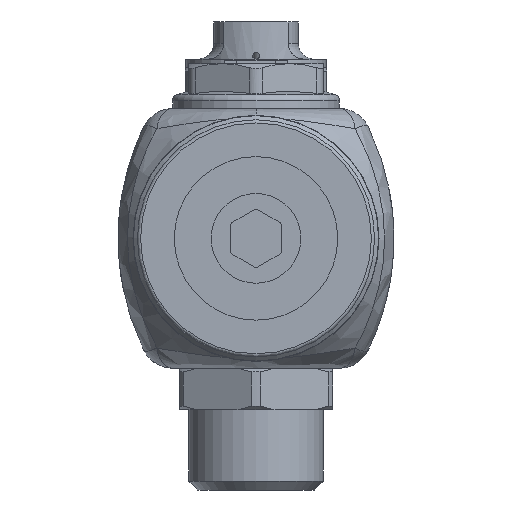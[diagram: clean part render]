
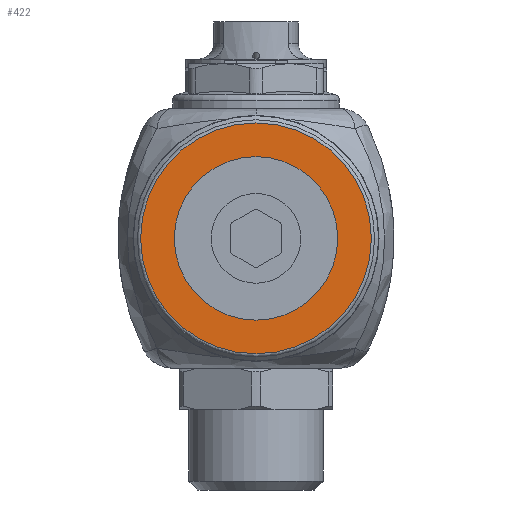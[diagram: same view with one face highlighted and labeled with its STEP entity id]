
A CAD part, front view. The second image highlights one B-rep face of the part: STEP entity #422.
In plain terms, the highlighted planar face has unit normal (0, -1, 0).
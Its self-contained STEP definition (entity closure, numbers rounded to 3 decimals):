
#422=ADVANCED_FACE('',(#12111,#12113),#12115,.F.);
#12111=FACE_BOUND('',#12112,.T.);
#12112=EDGE_LOOP('',(#21010));
#12113=FACE_BOUND('',#12114,.T.);
#12114=EDGE_LOOP('',(#21011));
#12115=PLANE('',#12116);
#12116=AXIS2_PLACEMENT_3D('',#12117,#12118,#12119);
#12117=CARTESIAN_POINT('',(0.,-95.75,0.));
#12118=DIRECTION('',(0.,1.,0.));
#12119=DIRECTION('',(-1.,0.,0.));
#21010=ORIENTED_EDGE('',*,*,#25100,.T.);
#21011=ORIENTED_EDGE('',*,*,#25130,.T.);
#25100=EDGE_CURVE('',#28262,#28262,#28263,.T.);
#25130=EDGE_CURVE('',#28311,#28311,#28312,.F.);
#28262=VERTEX_POINT('',#45520);
#28263=CIRCLE('',#45521,18.);
#28311=VERTEX_POINT('',#45638);
#28312=CIRCLE('',#45639,12.75);
#45520=CARTESIAN_POINT('',(18.,-95.75,0.));
#45521=AXIS2_PLACEMENT_3D('',#45522,#45523,#45524);
#45522=CARTESIAN_POINT('',(0.,-95.75,0.));
#45523=DIRECTION('',(0.,-1.,0.));
#45524=DIRECTION('',(1.,0.,0.));
#45638=CARTESIAN_POINT('',(12.75,-95.75,0.));
#45639=AXIS2_PLACEMENT_3D('',#45640,#45641,#45642);
#45640=CARTESIAN_POINT('',(0.,-95.75,0.));
#45641=DIRECTION('',(0.,-1.,0.));
#45642=DIRECTION('',(1.,0.,0.));
